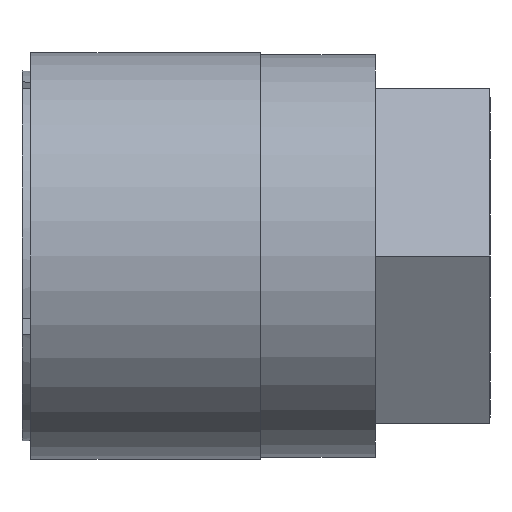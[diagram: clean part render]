
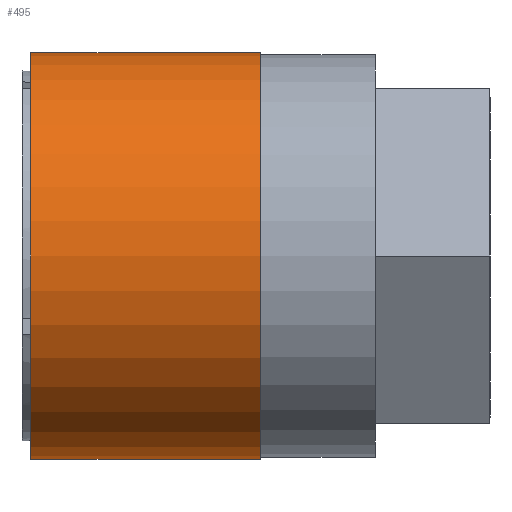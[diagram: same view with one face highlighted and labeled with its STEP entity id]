
A CAD part, front view. The second image highlights one B-rep face of the part: STEP entity #495.
In plain terms, the highlighted cylindrical face has radius 11.5 mm (diameter 23 mm), a partial arc.
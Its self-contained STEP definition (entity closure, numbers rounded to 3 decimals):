
#56 = EDGE_LOOP ( 'NONE', ( #1720, #1730, #1732, #1719 ) ) ;
#149 = FACE_OUTER_BOUND ( 'NONE', #56, .T. ) ;
#156 = CYLINDRICAL_SURFACE ( 'NONE', #941, 11.5 ) ;
#246 = VECTOR ( 'NONE', #1324, 1000. ) ;
#247 = LINE ( 'NONE', #1326, #246 ) ;
#314 = CIRCLE ( 'NONE', #1005, 11.5 ) ;
#320 = CIRCLE ( 'NONE', #1000, 11.5 ) ;
#331 = LINE ( 'NONE', #1147, #332 ) ;
#332 = VECTOR ( 'NONE', #1145, 1000. ) ;
#495 = ADVANCED_FACE ( 'NONE', ( #149 ), #156, .T. ) ;
#575 = CARTESIAN_POINT ( 'NONE',  ( 13.5, 0., 11.5 ) ) ;
#576 = CARTESIAN_POINT ( 'NONE',  ( 13.5, 0., -11.5 ) ) ;
#579 = CARTESIAN_POINT ( 'NONE',  ( 0.5, 0., -11.5 ) ) ;
#681 = CARTESIAN_POINT ( 'NONE',  ( 0.5, 0., 11.5 ) ) ;
#818 = EDGE_CURVE ( 'NONE', #1536, #1585, #247, .T. ) ;
#855 = EDGE_CURVE ( 'NONE', #1542, #1585, #314, .T. ) ;
#860 = EDGE_CURVE ( 'NONE', #1541, #1536, #320, .T. ) ;
#868 = EDGE_CURVE ( 'NONE', #1541, #1542, #331, .T. ) ;
#941 = AXIS2_PLACEMENT_3D ( 'NONE', #1702, #1701, #1686 ) ;
#1000 = AXIS2_PLACEMENT_3D ( 'NONE', #1181, #1169, #1168 ) ;
#1005 = AXIS2_PLACEMENT_3D ( 'NONE', #1193, #1185, #1184 ) ;
#1145 = DIRECTION ( 'NONE',  ( -1., 0., 0. ) ) ;
#1147 = CARTESIAN_POINT ( 'NONE',  ( 0., 0., -11.5 ) ) ;
#1168 = DIRECTION ( 'NONE',  ( 0., 0., 1. ) ) ;
#1169 = DIRECTION ( 'NONE',  ( -1., 0., 0. ) ) ;
#1181 = CARTESIAN_POINT ( 'NONE',  ( 13.5, 0., 0. ) ) ;
#1184 = DIRECTION ( 'NONE',  ( 0., 0., 1. ) ) ;
#1185 = DIRECTION ( 'NONE',  ( -1., 0., 0. ) ) ;
#1193 = CARTESIAN_POINT ( 'NONE',  ( 0.5, 0., 0. ) ) ;
#1324 = DIRECTION ( 'NONE',  ( -1., 0., 0. ) ) ;
#1326 = CARTESIAN_POINT ( 'NONE',  ( 0., 0., 11.5 ) ) ;
#1536 = VERTEX_POINT ( 'NONE', #575 ) ;
#1541 = VERTEX_POINT ( 'NONE', #576 ) ;
#1542 = VERTEX_POINT ( 'NONE', #579 ) ;
#1585 = VERTEX_POINT ( 'NONE', #681 ) ;
#1686 = DIRECTION ( 'NONE',  ( 0., 0., 1. ) ) ;
#1701 = DIRECTION ( 'NONE',  ( -1., 0., 0. ) ) ;
#1702 = CARTESIAN_POINT ( 'NONE',  ( 0., 0., 0. ) ) ;
#1719 = ORIENTED_EDGE ( 'NONE', *, *, #855, .F. ) ;
#1720 = ORIENTED_EDGE ( 'NONE', *, *, #868, .F. ) ;
#1730 = ORIENTED_EDGE ( 'NONE', *, *, #860, .T. ) ;
#1732 = ORIENTED_EDGE ( 'NONE', *, *, #818, .T. ) ;
